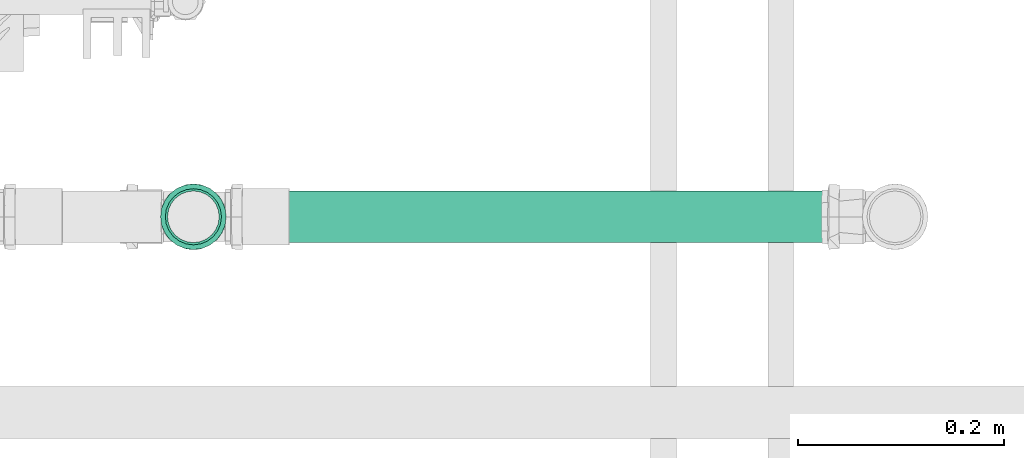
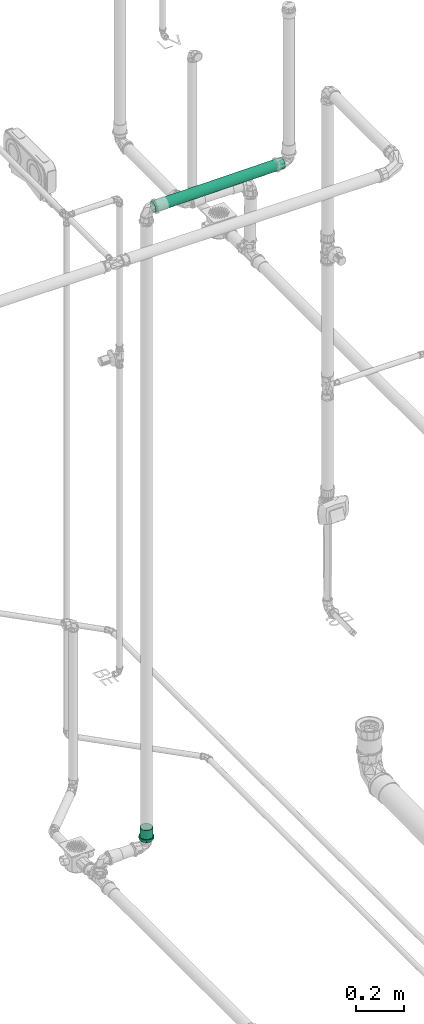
# One storey, part 148 of 589: 1 flow fitting, 1 flow segment.
"""IFC2X3 building model written with IfcOpenShell, lengths in millimetres."""

from ifc_helpers import new_model, entity, si_unit, converted_unit, derived_unit, direction, frame, origin, origin_2d_with_axis, place, context, subcontext, project, spatial, circle, extrude, faceted_brep, source, transform, mapped, material, type_object, type_shapes, element, save


model = new_model("IFC2X3")

# Units and contexts
model_context = context("Model", 3, precision=0.01, world=origin(), true_north=direction((6.123031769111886e-17, 1.0)))
body_context = subcontext(model_context, "Body", "Model", "MODEL_VIEW")
ifc_project = project(units=[si_unit("LENGTHUNIT", "METRE", prefix="MILLI"), si_unit("AREAUNIT", "SQUARE_METRE"), si_unit("VOLUMEUNIT", "CUBIC_METRE"), converted_unit("PLANEANGLEUNIT", "DEGREE", entity("IfcRatioMeasure", 0.017453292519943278), si_unit("PLANEANGLEUNIT", "RADIAN"), dimensions=[0, 0, 0, 0, 0, 0, 0]), si_unit("MASSUNIT", "GRAM", prefix="KILO"), derived_unit("MASSDENSITYUNIT", [(si_unit("MASSUNIT", "GRAM", prefix="KILO"), 1), (si_unit("LENGTHUNIT", "METRE"), -3)]), derived_unit("IONCONCENTRATIONUNIT", [(si_unit("MASSUNIT", "GRAM", prefix="KILO"), 1), (si_unit("LENGTHUNIT", "METRE"), -3)]), derived_unit("MOMENTOFINERTIAUNIT", [(si_unit("LENGTHUNIT", "METRE"), 4)]), si_unit("TIMEUNIT", "SECOND"), si_unit("FREQUENCYUNIT", "HERTZ"), si_unit("THERMODYNAMICTEMPERATUREUNIT", "DEGREE_CELSIUS"), derived_unit("THERMALTRANSMITTANCEUNIT", [(si_unit("MASSUNIT", "GRAM", prefix="KILO"), 1), (si_unit("THERMODYNAMICTEMPERATUREUNIT", "KELVIN"), -1), (si_unit("TIMEUNIT", "SECOND"), -3)]), derived_unit("THERMALCONDUCTANCEUNIT", [(si_unit("MASSUNIT", "GRAM", prefix="KILO"), 1), (si_unit("THERMODYNAMICTEMPERATUREUNIT", "KELVIN"), -1), (si_unit("TIMEUNIT", "SECOND"), -3), (si_unit("LENGTHUNIT", "METRE"), 1)]), derived_unit("VOLUMETRICFLOWRATEUNIT", [(si_unit("LENGTHUNIT", "METRE"), 3), (si_unit("TIMEUNIT", "SECOND"), -1)]), derived_unit("MASSFLOWRATEUNIT", [(si_unit("MASSUNIT", "GRAM", prefix="KILO"), 1), (si_unit("TIMEUNIT", "SECOND"), -1)]), derived_unit("ROTATIONALFREQUENCYUNIT", [(si_unit("TIMEUNIT", "SECOND"), -1)]), si_unit("ELECTRICCURRENTUNIT", "AMPERE"), si_unit("ELECTRICVOLTAGEUNIT", "VOLT"), si_unit("POWERUNIT", "WATT"), si_unit("FORCEUNIT", "NEWTON", prefix="KILO"), si_unit("ILLUMINANCEUNIT", "LUX"), si_unit("LUMINOUSFLUXUNIT", "LUMEN"), si_unit("LUMINOUSINTENSITYUNIT", "CANDELA"), derived_unit("USERDEFINED", [(si_unit("MASSUNIT", "GRAM", prefix="KILO"), -1), (si_unit("LENGTHUNIT", "METRE"), -2), (si_unit("TIMEUNIT", "SECOND"), 3), (si_unit("LUMINOUSFLUXUNIT", "LUMEN"), 1)]), derived_unit("USERDEFINED", [(si_unit("MASSUNIT", "GRAM", prefix="KILO"), 1), (si_unit("TIMEUNIT", "SECOND"), -3), (si_unit("LENGTHUNIT", "METRE"), 3), (si_unit("ELECTRICCURRENTUNIT", "AMPERE"), -2)]), derived_unit("SOUNDPOWERUNIT", [(si_unit("MASSUNIT", "GRAM", prefix="KILO"), 1), (si_unit("TIMEUNIT", "SECOND"), -3), (si_unit("LENGTHUNIT", "METRE"), 2)]), derived_unit("SOUNDPRESSUREUNIT", [(si_unit("MASSUNIT", "GRAM", prefix="KILO"), 1), (si_unit("LENGTHUNIT", "METRE"), -1), (si_unit("TIMEUNIT", "SECOND"), -2)]), derived_unit("LINEARVELOCITYUNIT", [(si_unit("LENGTHUNIT", "METRE"), 1), (si_unit("TIMEUNIT", "SECOND"), -1)]), si_unit("PRESSUREUNIT", "PASCAL"), derived_unit("USERDEFINED", [(si_unit("MASSUNIT", "GRAM", prefix="KILO"), 1), (si_unit("LENGTHUNIT", "METRE"), -2), (si_unit("TIMEUNIT", "SECOND"), -2)]), derived_unit("LINEARFORCEUNIT", [(si_unit("MASSUNIT", "GRAM", prefix="KILO"), 1), (si_unit("TIMEUNIT", "SECOND"), -2)]), derived_unit("PLANARFORCEUNIT", [(si_unit("MASSUNIT", "GRAM", prefix="KILO"), 1), (si_unit("LENGTHUNIT", "METRE"), -1), (si_unit("TIMEUNIT", "SECOND"), -2)]), derived_unit("SPECIFICHEATCAPACITYUNIT", [(si_unit("THERMODYNAMICTEMPERATUREUNIT", "KELVIN"), -1), (si_unit("LENGTHUNIT", "METRE"), 2), (si_unit("TIMEUNIT", "SECOND"), -2)]), derived_unit("HEATINGVALUEUNIT", [(si_unit("LENGTHUNIT", "METRE"), 2), (si_unit("TIMEUNIT", "SECOND"), -2)]), derived_unit("VAPORPERMEABILITYUNIT", [(si_unit("LENGTHUNIT", "METRE"), -1), (si_unit("TIMEUNIT", "SECOND"), 1)]), derived_unit("DYNAMICVISCOSITYUNIT", [(si_unit("MASSUNIT", "GRAM", prefix="KILO"), 1), (si_unit("TIMEUNIT", "SECOND"), -1), (si_unit("LENGTHUNIT", "METRE"), -1)]), derived_unit("THERMALEXPANSIONCOEFFICIENTUNIT", [(si_unit("THERMODYNAMICTEMPERATUREUNIT", "KELVIN"), -1)]), derived_unit("MODULUSOFELASTICITYUNIT", [(si_unit("MASSUNIT", "GRAM", prefix="KILO"), 1), (si_unit("LENGTHUNIT", "METRE"), -1), (si_unit("TIMEUNIT", "SECOND"), -2)]), derived_unit("ISOTHERMALMOISTURECAPACITYUNIT", [(si_unit("LENGTHUNIT", "METRE"), 3), (si_unit("MASSUNIT", "GRAM", prefix="KILO"), -1)]), derived_unit("MOISTUREDIFFUSIVITYUNIT", [(si_unit("TIMEUNIT", "SECOND"), -1), (si_unit("LENGTHUNIT", "METRE"), 2)])], contexts=[model_context])

# Site, building, storey
site_placement = place(None, origin())
site = spatial("IfcSite", under=ifc_project, at=site_placement, Name="Default", CompositionType="ELEMENT")
building_placement = place(site_placement, origin())
building = spatial("IfcBuilding", under=site, at=building_placement, CompositionType="ELEMENT")
storey_placement = place(building_placement, frame((0.0, 0.0, 100.0)))
storey = spatial("IfcBuildingStorey", under=building, at=storey_placement, Name="TÉRREO", CompositionType="ELEMENT", Elevation=100.0)

# Flow segment
pipe_segment_type = type_object("IfcPipeSegmentType", Name="Tipos de tubos:PVC Esgoto Série Normal", PredefinedType="NOTDEFINED")
flow_segment_placement = place(storey_placement, origin())
element("IfcFlowSegment", 1, at=flow_segment_placement, inside=storey, type_object=pipe_segment_type, Name="Tipos de tubos:PVC Esgoto Série Normal", ObjectType="Tipos de tubos:PVC Esgoto Série Normal", context=body_context, shape_type="SweptSolid", body=[
    extrude(circle(Radius=25.0, at=origin_2d_with_axis()), frame((7700.382604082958, -8422.90630799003, 3062.509397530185), z_axis=(0.9999500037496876, 0.0, 0.009999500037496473), x_axis=(0.0, -1.0, 0.0)), (0.0, 0.0, 1.0), 618.151399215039),
])

# Flow fitting
ifc_material = material(Name="PVC Série Normal")
pipe_fitting_type = type_object("IfcPipeFittingType", Name="PVC Esgoto_Luva Simples para Conexão_Rodrigo MEP:Standard", PredefinedType="NOTDEFINED", material=ifc_material)
shared_shape = source(origin(), body_context, "Body", "Brep", [
    faceted_brep([(16.599999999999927, 15.900000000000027, -27.53960784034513), (16.599999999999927, 22.485995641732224, -22.485995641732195), (16.599999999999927, 13.599999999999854, -23.555890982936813), (16.599999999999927, 7.039878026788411, -26.273182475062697), (16.599999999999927, 8.2304456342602, -30.71644127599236), (16.599999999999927, 19.233304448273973, -19.233304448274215), (16.599999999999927, 27.539607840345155, -15.899999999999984), (16.599999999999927, 23.55589098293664, -13.600000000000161), (16.599999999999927, 26.273182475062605, -7.03987802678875), (16.599999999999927, 30.716441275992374, -8.230445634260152), (16.599999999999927, 27.2, 0.0), (16.599999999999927, 31.8, 0.0), (16.599999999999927, 26.273182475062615, 7.0398780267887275), (16.599999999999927, 30.71644127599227, 8.23044563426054), (16.599999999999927, 23.555890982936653, 13.60000000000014), (16.599999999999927, 27.539607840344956, 15.900000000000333), (16.599999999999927, 19.233304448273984, 19.2333044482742), (16.599999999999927, 22.485995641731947, 22.48599564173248), (16.599999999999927, 13.599999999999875, 23.555890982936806), (16.599999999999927, 15.899999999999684, 27.53960784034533), (16.599999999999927, 7.039878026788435, 26.27318247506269), (16.599999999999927, 8.230445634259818, 30.716441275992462), (16.599999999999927, 0.0, 27.2), (16.599999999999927, 0.0, 31.8), (16.599999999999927, -7.039878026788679, 26.273182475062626), (16.599999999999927, -8.230445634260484, 30.716441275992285), (16.599999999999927, -13.600000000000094, 23.555890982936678), (16.599999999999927, -15.900000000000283, 27.53960784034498), (16.599999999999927, -19.23330444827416, 19.233304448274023), (16.599999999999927, -22.485995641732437, 22.48599564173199), (16.599999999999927, -23.55589098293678, 13.59999999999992), (16.599999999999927, -27.539607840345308, 15.899999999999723), (16.599999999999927, -30.71644127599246, 8.230445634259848), (16.599999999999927, -26.273182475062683, 7.039878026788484), (16.599999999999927, -31.8, 0.0), (16.599999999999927, -27.2, 0.0), (16.599999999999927, -30.71644127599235, -8.23044563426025), (16.599999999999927, -26.273182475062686, -7.03987802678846), (16.599999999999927, -27.53960784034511, -15.90000000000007), (16.599999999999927, -23.55589098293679, -13.599999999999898), (16.599999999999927, -22.485995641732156, -22.485995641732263), (16.599999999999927, -19.233304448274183, -19.233304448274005), (16.599999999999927, -15.899999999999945, -27.53960784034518), (16.599999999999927, -13.600000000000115, -23.555890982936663), (16.599999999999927, -8.230445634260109, -30.716441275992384), (16.599999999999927, -7.039878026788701, -26.273182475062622), (16.599999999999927, 0.0, -31.8), (16.599999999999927, 0.0, -27.2), (6.500000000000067, -10.708108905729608, 29.429219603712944), (6.500000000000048, -24.359073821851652, 20.44200387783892), (6.500000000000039, -27.120498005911, 15.6595386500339), (6.50000000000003, -29.881922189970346, 10.877073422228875), (6.500000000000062, -15.89769721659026, 27.540937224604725), (6.500000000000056, -20.128385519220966, 23.991470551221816), (6.50000000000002, -30.840961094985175, 5.438536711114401), (6.5000000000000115, -31.8, 0.0), (6.50000000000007, -5.518520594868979, 31.317501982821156), (6.500000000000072, 5.526376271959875, 31.316116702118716), (6.50000000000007, 0.00392783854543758, 31.316809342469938), (6.500000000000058, 20.134403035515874, 23.986420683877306), (6.500000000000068, 10.715490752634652, 29.42653259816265), (6.500000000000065, 15.904605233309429, 27.536948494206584), (6.500000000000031, 29.8846497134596, 10.869577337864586), (6.500000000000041, 27.12442527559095, 15.652735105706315), (6.5000000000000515, 24.364200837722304, 20.435892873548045), (6.5000000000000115, 31.8, 0.0), (6.499999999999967, 24.364200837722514, -20.435892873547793), (6.499999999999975, 27.12442527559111, -15.652735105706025), (6.499999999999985, 29.884649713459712, -10.869577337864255), (6.4999999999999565, 15.904605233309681, -27.53694849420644), (6.499999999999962, 20.134403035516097, -23.986420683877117), (6.499999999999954, 10.715490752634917, -29.42653259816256), (6.499999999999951, 5.526376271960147, -31.31611670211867), (6.499999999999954, -5.518520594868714, -31.317501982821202), (6.499999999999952, 0.003927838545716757, -31.316809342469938), (6.499999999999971, -20.128385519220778, -23.99147055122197), (6.499999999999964, -15.897697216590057, -27.54093722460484), (6.499999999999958, -10.70810890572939, -29.42921960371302), (6.499999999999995, -29.881922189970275, -10.877073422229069), (6.499999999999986, -27.12049800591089, -15.659538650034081), (6.499999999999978, -24.359073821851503, -20.442003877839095), (6.500000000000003, -30.840961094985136, -5.438536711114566), (6.499999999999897, -30.696173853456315, -6.259599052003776), (62.0, 13.600000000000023, -23.55589098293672), (62.0, 19.233304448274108, -19.23330444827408), (62.0, 12.499999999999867, -21.650635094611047), (62.0, 6.470476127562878, -24.14814565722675), (62.0, 7.039878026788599, -26.273182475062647), (62.0, 17.677669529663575, -17.677669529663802), (62.0, 23.55589098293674, -13.599999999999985), (62.0, 21.65063509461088, -12.50000000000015), (62.0, 24.148145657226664, -6.470476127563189), (62.0, 26.27318247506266, -7.039878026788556), (62.0, 25.0, 0.0), (62.0, 27.2, 0.0), (62.0, 24.148145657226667, 6.4704761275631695), (62.0, 26.273182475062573, 7.03987802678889), (62.0, 21.650635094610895, 12.500000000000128), (62.0, 23.555890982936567, 13.600000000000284), (62.0, 17.67766952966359, 17.67766952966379), (62.0, 19.233304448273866, 19.233304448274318), (62.0, 12.499999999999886, 21.650635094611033), (62.0, 13.59999999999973, 23.55589098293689), (62.0, 6.4704761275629, 24.14814565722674), (62.0, 7.039878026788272, 26.273182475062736), (62.0, 0.0, 25.0), (62.0, 0.0, 27.2), (62.0, -6.470476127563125, 24.148145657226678), (62.0, -7.039878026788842, 26.273182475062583), (62.0, -12.500000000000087, 21.650635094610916), (62.0, -13.600000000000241, 23.555890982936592), (62.0, -17.677669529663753, 17.677669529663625), (62.0, -19.233304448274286, 19.2333044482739), (62.0, -21.65063509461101, 12.499999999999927), (62.0, -23.555890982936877, 13.599999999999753), (62.0, -26.27318247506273, 7.039878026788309), (62.0, -24.14814565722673, 6.470476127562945), (62.0, -27.2, 0.0), (62.0, -25.0, 0.0), (62.0, -26.27318247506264, -7.0398780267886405), (62.0, -24.148145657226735, -6.470476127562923), (62.0, -23.5558909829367, -13.600000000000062), (62.0, -21.650635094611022, -12.499999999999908), (62.0, -19.233304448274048, -19.233304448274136), (62.0, -17.67766952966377, -17.677669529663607), (62.0, -13.599999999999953, -23.555890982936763), (62.0, -12.500000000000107, -21.650635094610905), (62.0, -7.039878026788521, -26.27318247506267), (62.0, -6.470476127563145, -24.148145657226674), (62.0, 0.0, -27.2), (62.0, 0.0, -25.0), (0.0, 12.499999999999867, -21.650635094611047), (0.0, 19.233304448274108, -19.23330444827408), (0.0, 13.600000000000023, -23.55589098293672), (0.0, 6.470476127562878, -24.14814565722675), (0.0, 17.677669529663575, -17.677669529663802), (0.0, 23.55589098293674, -13.599999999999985), (0.0, 21.65063509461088, -12.50000000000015), (0.0, 24.148145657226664, -6.470476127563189), (0.0, 26.27318247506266, -7.039878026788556), (0.0, 25.0, 0.0), (0.0, 27.2, 0.0), (0.0, 24.148145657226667, 6.4704761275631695), (0.0, 26.273182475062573, 7.03987802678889), (0.0, 21.650635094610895, 12.500000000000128), (0.0, 23.555890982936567, 13.600000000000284), (0.0, 17.67766952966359, 17.67766952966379), (0.0, 19.233304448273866, 19.233304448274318), (0.0, 12.499999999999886, 21.650635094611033), (0.0, 13.59999999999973, 23.55589098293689), (0.0, 6.4704761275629, 24.14814565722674), (0.0, 7.039878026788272, 26.273182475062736), (0.0, 0.0, 25.0), (0.0, 0.0, 27.2), (0.0, -6.470476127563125, 24.148145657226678), (0.0, -7.039878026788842, 26.273182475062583), (0.0, -12.500000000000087, 21.650635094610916), (0.0, -13.600000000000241, 23.555890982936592), (0.0, -17.677669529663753, 17.677669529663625), (0.0, -19.233304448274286, 19.2333044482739), (0.0, -21.65063509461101, 12.499999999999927), (0.0, -23.555890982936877, 13.599999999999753), (0.0, -26.27318247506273, 7.039878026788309), (0.0, -24.14814565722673, 6.470476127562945), (0.0, -27.2, 0.0), (0.0, -25.0, 0.0), (0.0, -26.27318247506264, -7.0398780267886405), (0.0, -24.148145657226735, -6.470476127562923), (0.0, -23.5558909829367, -13.600000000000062), (0.0, -21.650635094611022, -12.499999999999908), (0.0, -19.233304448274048, -19.233304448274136), (0.0, -17.67766952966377, -17.677669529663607), (0.0, -13.599999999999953, -23.555890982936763), (0.0, -12.500000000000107, -21.650635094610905), (0.0, -7.039878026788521, -26.27318247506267), (0.0, -6.470476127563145, -24.148145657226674), (0.0, 0.0, -27.2), (0.0, 0.0, -25.0), (0.0, 7.039878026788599, -26.273182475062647), (5.300000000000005, -26.37968999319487, 4.651830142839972), (5.299999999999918, -26.25584678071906, 5.354122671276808), (5.300000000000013, -25.559379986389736, 9.303660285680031), (5.300000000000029, -20.835434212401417, 17.48498444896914), (5.300000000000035, -17.216732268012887, 20.521006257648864), (5.300000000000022, -23.19740709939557, 13.394322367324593), (5.3000000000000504, -4.720244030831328, 26.787297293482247), (5.300000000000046, -9.15913717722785, 25.172162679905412), (5.299999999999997, -27.2, 0.0), (5.300000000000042, -13.598030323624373, 23.557028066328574), (5.300000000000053, 9.165451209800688, 25.169864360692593), (5.300000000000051, 13.603939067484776, 23.55361632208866), (5.300000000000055, 4.7269633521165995, 26.786112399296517), (5.300000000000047, 17.221879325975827, 20.516686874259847), (5.300000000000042, 20.839819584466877, 17.479757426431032), (5.3000000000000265, 25.56171296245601, 9.297248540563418), (5.299999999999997, 27.2, 0.0), (5.3000000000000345, 23.20076627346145, 13.388502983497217), (5.300000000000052, 0.003359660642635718, 26.786704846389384), (5.299999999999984, 25.56171296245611, -9.29724854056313), (5.299999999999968, 20.839819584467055, -17.47975742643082), (5.2999999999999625, 17.22187932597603, -20.516686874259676), (5.299999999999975, 23.200766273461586, -13.388502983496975), (5.299999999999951, 4.726963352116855, -26.78611239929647), (5.2999999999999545, 9.165451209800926, -25.169864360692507), (5.299999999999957, 13.603939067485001, -23.553616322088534), (5.29999999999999, -26.379689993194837, -4.651830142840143), (5.299999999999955, -9.159137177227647, -25.17216267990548), (5.299999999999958, -13.5980303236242, -23.55702806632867), (5.299999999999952, -4.720244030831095, -26.787297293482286), (5.299999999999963, -17.216732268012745, -20.52100625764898), (5.299999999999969, -20.83543421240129, -17.484984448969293), (5.299999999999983, -25.559379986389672, -9.303660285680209), (5.299999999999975, -23.197407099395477, -13.394322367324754), (5.299999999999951, 0.003359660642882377, -26.78670484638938), (39.0, -25.0, 0.0), (39.0, 25.0, 0.0)], [[[0, 1, 2]], [[0, 2, 3]], [[3, 4, 0]], [[2, 1, 5]], [[6, 5, 1]], [[7, 5, 6]], [[8, 7, 6]], [[8, 6, 9]], [[8, 9, 10]], [[10, 9, 11]], [[12, 10, 11]], [[12, 11, 13]], [[14, 12, 13]], [[14, 13, 15]], [[16, 14, 15]], [[15, 17, 16]], [[17, 18, 16]], [[17, 19, 18]], [[18, 19, 20]], [[21, 20, 19]], [[20, 21, 22]], [[22, 21, 23]], [[22, 23, 24]], [[24, 23, 25]], [[24, 25, 26]], [[27, 26, 25]], [[27, 28, 26]], [[28, 27, 29]], [[30, 28, 29]], [[31, 30, 29]], [[32, 30, 31]], [[33, 30, 32]], [[33, 32, 34]], [[35, 33, 34]], [[36, 35, 34]], [[36, 37, 35]], [[37, 36, 38]], [[39, 37, 38]], [[39, 38, 40]], [[39, 40, 41]], [[40, 42, 41]], [[41, 42, 43]], [[43, 42, 44]], [[44, 45, 43]], [[46, 45, 44]], [[4, 47, 46]], [[46, 47, 45]], [[4, 3, 47]], [[48, 27, 25]], [[31, 29, 49]], [[31, 49, 50, 51]], [[52, 53, 27]], [[32, 51, 54]], [[54, 55, 34]], [[54, 34, 32]], [[25, 56, 48]], [[49, 29, 53]], [[23, 57, 58, 56]], [[59, 19, 17]], [[27, 53, 29]], [[48, 52, 27]], [[31, 51, 32]], [[57, 23, 21]], [[60, 19, 61]], [[15, 62, 63, 64]], [[19, 60, 21]], [[15, 13, 62]], [[17, 64, 59]], [[57, 21, 60]], [[23, 56, 25]], [[15, 64, 17]], [[13, 65, 62]], [[13, 11, 65]], [[59, 61, 19]], [[65, 11, 9]], [[6, 1, 66]], [[6, 66, 67, 68]], [[69, 70, 0]], [[68, 65, 9]], [[71, 69, 0]], [[71, 0, 4]], [[4, 72, 71]], [[66, 1, 70]], [[46, 73, 74, 72]], [[75, 76, 42]], [[0, 70, 1]], [[75, 42, 40]], [[6, 68, 9]], [[73, 46, 44]], [[77, 42, 76]], [[38, 78, 79, 80]], [[42, 77, 44]], [[38, 36, 78]], [[40, 80, 75]], [[73, 44, 77]], [[46, 72, 4]], [[38, 80, 40]], [[36, 81, 82, 78]], [[55, 81, 34]], [[34, 81, 36]], [[83, 84, 85]], [[83, 85, 86]], [[86, 87, 83]], [[85, 84, 88]], [[89, 88, 84]], [[88, 89, 90]], [[90, 89, 91]], [[92, 91, 89]], [[92, 93, 91]], [[93, 92, 94]], [[95, 93, 94]], [[94, 96, 95]], [[95, 96, 97]], [[98, 97, 96]], [[97, 98, 99]], [[99, 98, 100]], [[101, 99, 100]], [[100, 102, 101]], [[101, 102, 103]], [[104, 103, 102]], [[103, 104, 105]], [[105, 104, 106]], [[105, 106, 107]], [[107, 106, 108]], [[107, 108, 109]], [[110, 109, 108]], [[110, 111, 109]], [[111, 110, 112]], [[112, 113, 111]], [[114, 113, 112]], [[113, 114, 115]], [[115, 116, 113]], [[117, 116, 115]], [[117, 118, 116]], [[119, 118, 117]], [[119, 120, 118]], [[120, 119, 121]], [[121, 122, 120]], [[122, 121, 123]], [[122, 123, 124]], [[123, 125, 124]], [[124, 125, 126]], [[126, 125, 127]], [[127, 128, 126]], [[129, 128, 127]], [[87, 130, 129]], [[129, 130, 128]], [[87, 86, 130]], [[131, 132, 133]], [[134, 131, 133]], [[135, 132, 131]], [[132, 135, 136]], [[137, 136, 135]], [[138, 136, 137]], [[136, 138, 139]], [[138, 140, 139]], [[141, 139, 140]], [[141, 140, 142]], [[142, 143, 141]], [[144, 143, 142]], [[143, 144, 145]], [[146, 145, 144]], [[147, 145, 146]], [[147, 146, 148]], [[148, 149, 147]], [[150, 149, 148]], [[149, 150, 151]], [[152, 151, 150]], [[153, 151, 152]], [[154, 153, 152]], [[155, 153, 154]], [[156, 155, 154]], [[155, 156, 157]], [[156, 158, 157]], [[159, 157, 158]], [[158, 160, 159]], [[159, 160, 161]], [[162, 161, 160]], [[160, 163, 162]], [[162, 163, 164]], [[163, 165, 164]], [[164, 165, 166]], [[165, 167, 166]], [[168, 166, 167]], [[167, 169, 168]], [[170, 168, 169]], [[171, 170, 169]], [[171, 172, 170]], [[173, 172, 171]], [[174, 172, 173]], [[173, 175, 174]], [[174, 175, 176]], [[175, 177, 176]], [[177, 134, 178]], [[176, 177, 178]], [[133, 178, 134]], [[162, 179, 180, 181]], [[159, 182, 183]], [[182, 161, 181, 184]], [[185, 155, 186]], [[161, 162, 181]], [[187, 179, 164]], [[183, 188, 157]], [[183, 157, 159]], [[161, 182, 159]], [[189, 190, 149]], [[189, 149, 151]], [[157, 188, 186]], [[157, 186, 155]], [[153, 155, 185]], [[164, 179, 162]], [[151, 191, 189]], [[147, 192, 193]], [[143, 194, 195]], [[194, 145, 193, 196]], [[143, 195, 141]], [[10, 12, 96, 94]], [[149, 192, 147]], [[153, 185, 197, 191]], [[153, 191, 151]], [[145, 147, 193]], [[190, 192, 149]], [[145, 194, 143]], [[139, 195, 198]], [[132, 199, 200]], [[199, 136, 198, 201]], [[202, 178, 203]], [[136, 139, 198]], [[139, 141, 195]], [[92, 8, 10, 94]], [[133, 203, 178]], [[200, 204, 133]], [[136, 199, 132]], [[205, 164, 166]], [[206, 207, 172]], [[133, 204, 203]], [[206, 172, 174]], [[176, 178, 202]], [[200, 133, 132]], [[174, 208, 206]], [[170, 209, 210]], [[166, 211, 205]], [[211, 168, 210, 212]], [[168, 211, 166]], [[172, 209, 170]], [[176, 202, 213, 208]], [[176, 208, 174]], [[168, 170, 210]], [[207, 209, 172]], [[205, 187, 164]], [[116, 118, 214, 165, 163]], [[156, 109, 111, 158]], [[111, 113, 160, 158]], [[113, 116, 163, 160]], [[107, 109, 156, 154]], [[154, 152, 105, 107]], [[103, 105, 152, 150]], [[103, 150, 148, 101]], [[142, 95, 97, 144]], [[97, 99, 146, 144]], [[99, 101, 148, 146]], [[93, 95, 142, 140, 215]], [[215, 140, 138, 91, 93]], [[135, 131, 85, 88]], [[90, 91, 138, 137]], [[90, 137, 135, 88]], [[86, 85, 131, 134]], [[134, 177, 130, 86]], [[128, 130, 177, 175]], [[128, 175, 173, 126]], [[167, 120, 122, 169]], [[122, 124, 171, 169]], [[124, 126, 173, 171]], [[118, 120, 167, 165, 214]], [[211, 78, 82, 81, 55, 187, 205]], [[79, 78, 211, 212, 210, 80]], [[75, 80, 210, 209, 207, 76]], [[207, 206, 208, 73, 77, 76]], [[213, 202, 72, 74, 73, 208]], [[203, 204, 69, 71, 72, 202]], [[198, 195, 65, 68]], [[199, 201, 198, 68, 67, 66]], [[204, 200, 199, 66, 70, 69]], [[195, 194, 62, 65]], [[197, 185, 56, 58, 57, 191]], [[63, 62, 194, 196, 193, 64]], [[57, 60, 61, 190, 189, 191]], [[193, 192, 190, 61, 59, 64]], [[48, 56, 185, 186, 188, 52]], [[187, 55, 54, 51, 181, 180, 179]], [[182, 184, 181, 51, 50, 49]], [[188, 183, 182, 49, 53, 52]], [[30, 33, 115, 114]], [[117, 115, 33, 35]], [[26, 28, 112, 110]], [[114, 112, 28, 30]], [[24, 26, 110, 108]], [[108, 106, 22, 24]], [[18, 20, 104, 102]], [[100, 16, 18, 102]], [[12, 14, 98, 96]], [[100, 98, 14, 16]], [[104, 20, 22, 106]], [[89, 7, 8, 92]], [[83, 87, 3, 2]], [[7, 89, 84, 5]], [[83, 2, 5, 84]], [[87, 129, 47, 3]], [[43, 45, 127, 125]], [[123, 41, 43, 125]], [[37, 39, 121, 119]], [[123, 121, 39, 41]], [[35, 37, 119, 117]], [[127, 45, 47, 129]]]),
])
type_shapes(pipe_fitting_type, [shared_shape])
flow_fitting_placement = place(storey_placement, frame((7669.442851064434, -8422.90630799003, -116.85870003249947), z_axis=(0.0, -1.0, 0.0), x_axis=(0.0, 0.0, 1.0)))
element("IfcFlowFitting", 2, at=flow_fitting_placement, inside=storey, type_object=pipe_fitting_type, material=ifc_material, Name="PVC Esgoto_Luva Simples para Conexão_Rodrigo MEP:Standard", ObjectType="PVC Esgoto_Luva Simples para Conexão_Rodrigo MEP:Standard", context=body_context, shape_type="MappedRepresentation", body=[
    mapped(shared_shape, transform((0.0, 0.0, 0.0), scale=1.0)),
])

save(model, "model.ifc")
